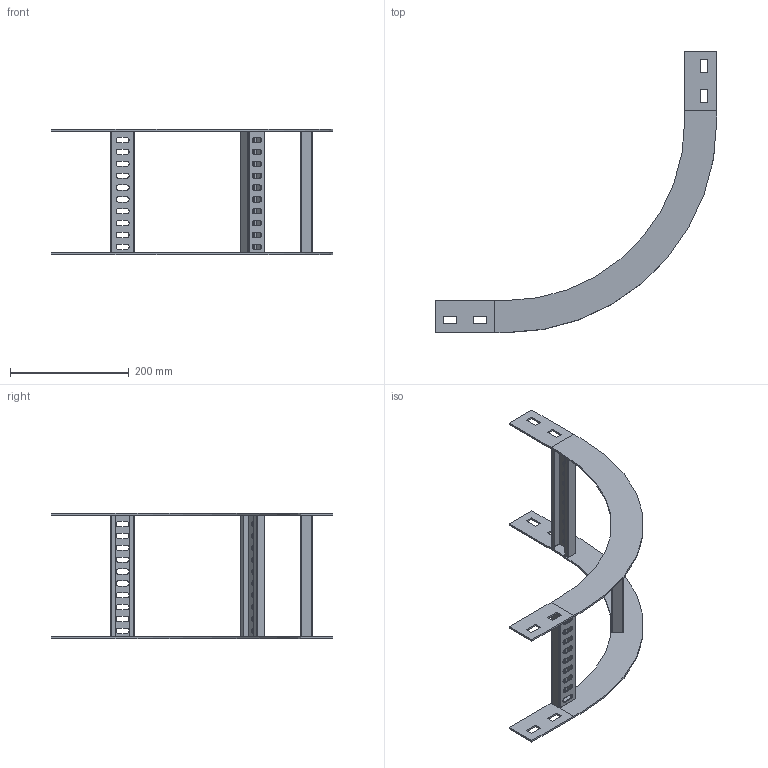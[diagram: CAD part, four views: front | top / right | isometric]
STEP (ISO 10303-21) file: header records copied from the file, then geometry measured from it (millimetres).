
FILE_DESCRIPTION(/* description */ ('','CAx-IF Rec.Pracs.---Representation and Presentation of Product Manufacturing Information (PMI)---4.0---2014-10-13'),/* implementation_level */ '2;1');
FILE_NAME(/* name */ 'Eurostrut_EOR60-200-300_Outisde Riser 90 for Cable Ladder ECL.step',/* time_stamp */ '2026-09-07T11:22:38+02:00',/* author */ (''),/* organization */ (''),/* preprocessor_version */ 'ST-DEVELOPER v20.1',/* originating_system */ 'Autodesk Revit 2027 27.2.0.39',/* authorisation */ '');
FILE_SCHEMA (('AP242_MANAGED_MODEL_BASED_3D_ENGINEERING_MIM_LF { 1 0 10303 442 2 1 4 }'));
Length unit declared in the file: millimetre
Products named in the file (4): TopLevelAssembly; Eurostrut_Cable Ladder_Accessory End_54-94-142; Eurostrut_Cable Ladder_Rung_V2 Vertical_Array EOR_Slotted; Sweep
Assembly tree (6 placements, depth 2):
  TopLevelAssembly
    Eurostrut_Cable Ladder_Accessory End_54-94-142  x4
    Eurostrut_Cable Ladder_Rung_V2 Vertical_Array EOR_Slotted
    Sweep
Bounding box: 474 x 474 x 211 mm (x, y, z)
Volume: 310634.4 mm3; surface area: 273310.3 mm2
Topology: 9 solids, 9 shells, 250 faces, 696 edges, 464 vertices
Faces by surface type: plane 174, bspline 60, cylinder 16
Entity records: 8658 total; most frequent: CARTESIAN_POINT 3058, ORIENTED_EDGE 1176, DIRECTION 1056, EDGE_CURVE 588, LINE 436, VECTOR 436, VERTEX_POINT 392, AXIS2_PLACEMENT_3D 310
